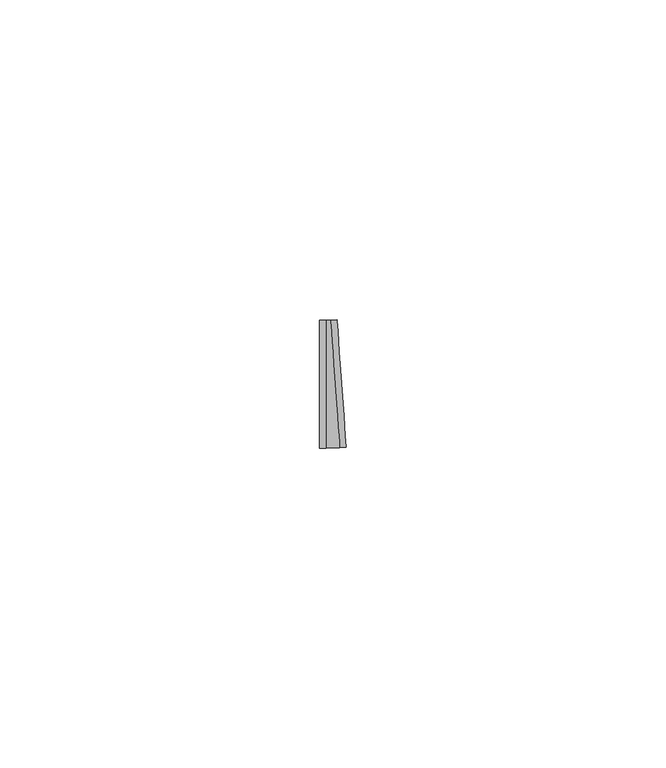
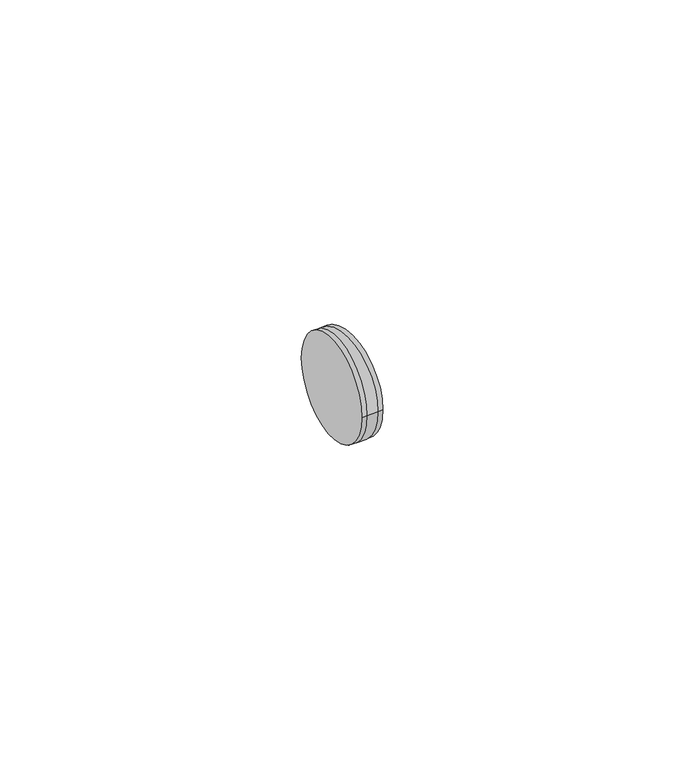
"""IFC4 building model written with IfcOpenShell, lengths in millimetres: cable carrier fitting geometry, ADSK_Поворот_Минимальный размер : Неспецифицируемый."""

from ifc_helpers import new_model, si_unit, point, frame, origin, place, context, project, spatial, circle_curve, ellipse_curve, trimmed, source, transform, mapped, element, save
from ifc_brep_helpers import plane_surface, cylinder_surface, revolved_surface, advanced_brep


def cable_carrier_fitting_7c9a67d1(model_context):
    return source(origin(), model_context, "Body", "AdvancedBrep", [
        advanced_brep(
        [(-1.7242674, -10.0, 0.0), (-1.7242674, 10.0, 0.0), (-0.7242674, -10.0, 0.0), (-0.7242674, 10.0, 0.0), (-0.0009486, 10.0261938, 0.0), (1.4456892, -9.9214186, 0.0), (2.4430698, -9.8490867, 0.0), (0.9964321, 10.0985257, 0.0)],
        [
            (0, 1, circle_curve(frame((-1.7242674, 0.0, 0.0), z_axis=(-1.0, -4.92260399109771e-12, 0.0), x_axis=(-4.92260399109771e-12, 1.0, 0.0)), 10.0)),
            (1, 0, circle_curve(frame((-1.7242674, 0.0, 0.0), z_axis=(-1.0, -4.92260399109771e-12, 0.0), x_axis=(-4.92260399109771e-12, 1.0, 0.0)), 10.0)),
            (0, 2),
            (2, 3, circle_curve(frame((-0.7242674, 0.0, 0.0), z_axis=(-1.0, -4.92260399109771e-12, 0.0), x_axis=(-4.92260399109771e-12, 1.0, 0.0)), 10.0)),
            (3, 1),
            (3, 2, circle_curve(frame((-0.7242674, 0.0, 0.0), z_axis=(-1.0, -4.92260399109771e-12, 0.0), x_axis=(-4.92260399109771e-12, 1.0, 0.0)), 10.0)),
            (4, 3, circle_curve(frame((-0.7242674, 20.0, 0.0), z_axis=(0.0, 0.0, -1.0), x_axis=(0.0, -1.0, 0.0)), 10.0)),
            (2, 5, circle_curve(frame((-0.7242674, 20.0, 0.0), z_axis=(0.0, 0.0, 1.0), x_axis=(0.0, -1.0, 0.0)), 30.0)),
            (5, 4, circle_curve(frame((0.7223703, 0.0523876, 0.0), z_axis=(-0.9973806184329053, -0.07233188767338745, 0.0), x_axis=(-0.07233188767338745, 0.9973806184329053, 0.0)), 10.0)),
            (4, 5, circle_curve(frame((0.7223703, 0.0523876, 0.0), z_axis=(-0.9973806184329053, -0.07233188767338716, 0.0), x_axis=(-0.07233188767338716, 0.9973806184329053, 0.0)), 10.0)),
            (6, 7, circle_curve(frame((1.7197509, 0.1247195, 0.0), z_axis=(0.9973806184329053, 0.07233188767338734, 0.0), x_axis=(-0.07233188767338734, 0.9973806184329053, 0.0)), 10.0)),
            (7, 6, circle_curve(frame((1.7197509, 0.1247195, 0.0), z_axis=(0.9973806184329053, 0.07233188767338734, 0.0), x_axis=(-0.07233188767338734, 0.9973806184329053, 0.0)), 10.0)),
            (5, 6),
            (7, 4),
        ],
        [
            plane_surface(frame((-1.7242674, 0.0, 0.0), z_axis=(-1.0, -4.92260399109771e-12, 0.0), x_axis=(0.0, 0.0, 1.0))),
            cylinder_surface(frame((-1.7242674, 0.0, 0.0), z_axis=(-1.0, -4.92260399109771e-12, 0.0), x_axis=(-4.92260399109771e-12, 1.0, 0.0)), 10.0),
            revolved_surface(trimmed(ellipse_curve(frame((-0.7242674, 0.0, 0.0), z_axis=(-1.0, 0.0, 0.0), x_axis=(0.0, 1.0, 0.0)), 10.0, 10.0), [point((-0.7242674, -10.0, 0.0))], [point((-0.7242674, 10.0, 0.0))], True, "CARTESIAN"), (-0.7242674, 20.0, 0.0), (0.0, 0.0, 1.0)),
            revolved_surface(trimmed(ellipse_curve(frame((-0.7242674, 0.0, 0.0), z_axis=(-1.0, 0.0, 0.0), x_axis=(0.0, 1.0, 0.0)), 10.0, 10.0), [point((-0.7242674, 10.0, 0.0))], [point((-0.7242674, -10.0, 0.0))], True, "CARTESIAN"), (-0.7242674, 20.0, 0.0), (0.0, 0.0, 1.0)),
            plane_surface(frame((1.7197509, 0.1247195, 0.0), z_axis=(0.9973806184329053, 0.07233188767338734, 0.0), x_axis=(0.0, 0.0, 1.0))),
            cylinder_surface(frame((0.7223703, 0.0523876, 0.0), z_axis=(-0.9973806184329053, -0.07233188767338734, 0.0), x_axis=(-0.07233188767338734, 0.9973806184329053, 0.0)), 10.0),
        ],
        [
            (0, [[1, 2]]),
            (1, [[-1, 3, 4, 5]]),
            (1, [[-2, -5, 6, -3]]),
            (2, [[7, -4, 8, 9]]),
            (3, [[-8, -6, -7, 10]]),
            (4, [[11, 12]]),
            (5, [[-9, 13, -12, 14]]),
            (5, [[-10, -14, -11, -13]]),
        ],
    ),
    ])


if __name__ == "__main__":
    model = new_model("IFC4")
    model_context = context("Model", 3, world=origin())
    ifc_project = project(units=[si_unit("LENGTHUNIT", "METRE", prefix="MILLI")], contexts=[model_context])
    site = spatial("IfcSite", under=ifc_project)
    building = spatial("IfcBuilding", under=site)
    placement = place(None, origin())
    cable_carrier_fitting_shape = cable_carrier_fitting_7c9a67d1(model_context)
    element("IfcCableCarrierFitting", 1, ObjectType="ADSK_Поворот_Минимальный размер : Неспецифицируемый", at=placement, inside=building, context=model_context, shape_type="MappedRepresentation", body=[
        mapped(cable_carrier_fitting_shape, transform((0.0, 0.0, 0.0), x_axis=(1.0, 0.0, 0.0), y_axis=(0.0, 1.0, 0.0), z_axis=(0.0, 0.0, 1.0))),
    ])
    save(model, "model.ifc")
